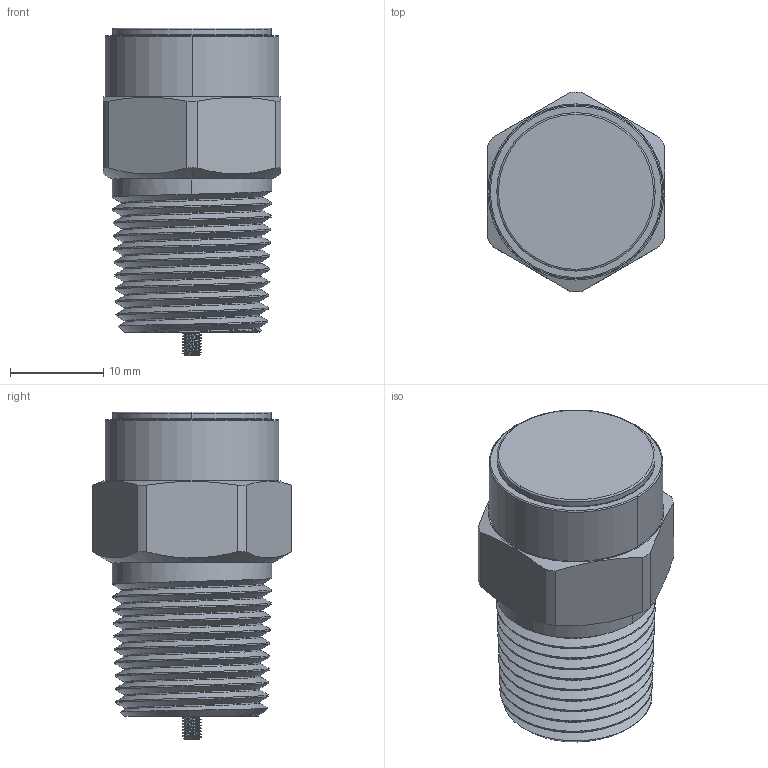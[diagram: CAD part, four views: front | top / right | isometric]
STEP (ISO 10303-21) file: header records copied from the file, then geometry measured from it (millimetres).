
FILE_DESCRIPTION (( 'STEP AP203' ), '1' );
FILE_NAME ('PSNC-3-SERIES.STEP', '2020-03-23T21:03:42', ( '' ), ( '' ), 'SwSTEP 2.0', 'SolidWorks 2017', '' );
FILE_SCHEMA (( 'CONFIG_CONTROL_DESIGN' ));
Length unit declared in the file: inch
Products named in the file (2): PSNC-3-SERIES
Bounding box: 19.11 x 21.46 x 35.2 mm (x, y, z)
Volume: 4355.1 mm3; surface area: 5220.2 mm2
Topology: 6 solids, 6 shells, 268 faces, 735 edges, 485 vertices
Faces by surface type: cylinder 173, cone 39, plane 36, torus 12, bspline 8
Entity records: 24357 total; most frequent: CARTESIAN_POINT 18291, ORIENTED_EDGE 1466, DIRECTION 1022, EDGE_CURVE 733, VERTEX_POINT 481, AXIS2_PLACEMENT_3D 387, EDGE_LOOP 280, FACE_OUTER_BOUND 268
